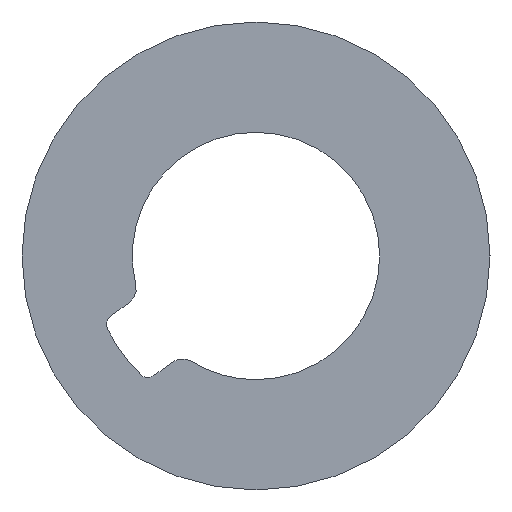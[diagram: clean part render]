
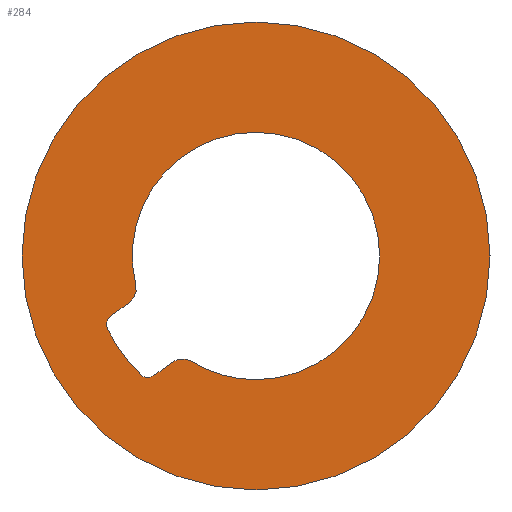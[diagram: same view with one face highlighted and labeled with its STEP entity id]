
A CAD part, left-side view. The second image highlights one B-rep face of the part: STEP entity #284.
In plain terms, the highlighted planar face has unit normal (-1, 0, 0).
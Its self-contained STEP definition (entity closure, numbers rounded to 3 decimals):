
#22 = AXIS2_PLACEMENT_3D ( 'NONE', #395, #394, #393 ) ;
#27 = AXIS2_PLACEMENT_3D ( 'NONE', #420, #419, #418 ) ;
#34 = AXIS2_PLACEMENT_3D ( 'NONE', #454, #453, #452 ) ;
#36 = AXIS2_PLACEMENT_3D ( 'NONE', #468, #467, #466 ) ;
#38 = AXIS2_PLACEMENT_3D ( 'NONE', #479, #478, #477 ) ;
#40 = AXIS2_PLACEMENT_3D ( 'NONE', #493, #492, #491 ) ;
#42 = AXIS2_PLACEMENT_3D ( 'NONE', #522, #521, #520 ) ;
#43 = AXIS2_PLACEMENT_3D ( 'NONE', #354, #525, #524 ) ;
#44 = AXIS2_PLACEMENT_3D ( 'NONE', #366, #362, #358 ) ;
#45 = AXIS2_PLACEMENT_3D ( 'NONE', #388, #384, #379 ) ;
#47 = AXIS2_PLACEMENT_3D ( 'NONE', #421, #417, #414 ) ;
#48 = AXIS2_PLACEMENT_3D ( 'NONE', #432, #429, #425 ) ;
#49 = EDGE_CURVE ( 'NONE', #469, #516, #230, .T. ) ;
#50 = EDGE_CURVE ( 'NONE', #476, #451, #228, .T. ) ;
#53 = EDGE_CURVE ( 'NONE', #519, #440, #222, .T. ) ;
#54 = EDGE_CURVE ( 'NONE', #440, #513, #223, .T. ) ;
#55 = EDGE_CURVE ( 'NONE', #513, #476, #218, .T. ) ;
#56 = EDGE_CURVE ( 'NONE', #451, #462, #216, .T. ) ;
#57 = EDGE_CURVE ( 'NONE', #462, #465, #214, .T. ) ;
#66 = EDGE_CURVE ( 'NONE', #436, #444, #196, .T. ) ;
#70 = EDGE_CURVE ( 'NONE', #490, #494, #188, .T. ) ;
#73 = EDGE_CURVE ( 'NONE', #516, #490, #182, .T. ) ;
#77 = EDGE_CURVE ( 'NONE', #494, #519, #174, .T. ) ;
#86 = EDGE_CURVE ( 'NONE', #444, #436, #156, .T. ) ;
#87 = EDGE_CURVE ( 'NONE', #465, #469, #157, .T. ) ;
#93 = ORIENTED_EDGE ( 'NONE', *, *, #87, .T. ) ;
#94 = ORIENTED_EDGE ( 'NONE', *, *, #66, .F. ) ;
#95 = ORIENTED_EDGE ( 'NONE', *, *, #86, .F. ) ;
#96 = ORIENTED_EDGE ( 'NONE', *, *, #49, .T. ) ;
#97 = ORIENTED_EDGE ( 'NONE', *, *, #70, .T. ) ;
#98 = ORIENTED_EDGE ( 'NONE', *, *, #73, .T. ) ;
#104 = ORIENTED_EDGE ( 'NONE', *, *, #54, .T. ) ;
#105 = ORIENTED_EDGE ( 'NONE', *, *, #53, .T. ) ;
#106 = ORIENTED_EDGE ( 'NONE', *, *, #77, .T. ) ;
#107 = ORIENTED_EDGE ( 'NONE', *, *, #56, .T. ) ;
#108 = ORIENTED_EDGE ( 'NONE', *, *, #50, .T. ) ;
#109 = ORIENTED_EDGE ( 'NONE', *, *, #55, .T. ) ;
#110 = ORIENTED_EDGE ( 'NONE', *, *, #57, .T. ) ;
#146 = FACE_BOUND ( 'NONE', #235, .T. ) ;
#147 = FACE_OUTER_BOUND ( 'NONE', #236, .T. ) ;
#155 = VECTOR ( 'NONE', #415, 1000. ) ;
#156 = CIRCLE ( 'NONE', #27, 7. ) ;
#157 = LINE ( 'NONE', #416, #155 ) ;
#174 = CIRCLE ( 'NONE', #34, 3.7 ) ;
#182 = CIRCLE ( 'NONE', #36, 3.7 ) ;
#188 = CIRCLE ( 'NONE', #38, 3.7 ) ;
#196 = CIRCLE ( 'NONE', #40, 7. ) ;
#214 = CIRCLE ( 'NONE', #42, 0.3 ) ;
#216 = CIRCLE ( 'NONE', #43, 4.95 ) ;
#218 = CIRCLE ( 'NONE', #44, 0.3 ) ;
#219 = VECTOR ( 'NONE', #370, 1000. ) ;
#222 = CIRCLE ( 'NONE', #45, 0.5 ) ;
#223 = LINE ( 'NONE', #374, #219 ) ;
#228 = CIRCLE ( 'NONE', #47, 0.3 ) ;
#230 = CIRCLE ( 'NONE', #48, 0.5 ) ;
#235 = EDGE_LOOP ( 'NONE', ( #93, #96, #98, #97, #106, #105, #104, #109, #108, #107, #110 ) ) ;
#236 = EDGE_LOOP ( 'NONE', ( #95, #94 ) ) ;
#284 = ADVANCED_FACE ( 'NONE', ( #147, #146 ), #396, .F. ) ;
#318 = CARTESIAN_POINT ( 'NONE',  ( -464.5, 1.939, -3.151 ) ) ;
#319 = CARTESIAN_POINT ( 'NONE',  ( -464.5, 3.596, -0.87 ) ) ;
#320 = CARTESIAN_POINT ( 'NONE',  ( -464.5, 3.059, -3.582 ) ) ;
#326 = CARTESIAN_POINT ( 'NONE',  ( -464.5, 0., -3.7 ) ) ;
#327 = CARTESIAN_POINT ( 'NONE',  ( -464.5, 0., 3.7 ) ) ;
#331 = CARTESIAN_POINT ( 'NONE',  ( -464.5, 3.236, -3.64 ) ) ;
#333 = CARTESIAN_POINT ( 'NONE',  ( -464.5, 3.788, -1.393 ) ) ;
#334 = CARTESIAN_POINT ( 'NONE',  ( -464.5, 4.352, -1.803 ) ) ;
#335 = CARTESIAN_POINT ( 'NONE',  ( -464.5, 4.445, -2.177 ) ) ;
#338 = CARTESIAN_POINT ( 'NONE',  ( -464.5, 3.444, -3.555 ) ) ;
#340 = CARTESIAN_POINT ( 'NONE',  ( -464.5, 0., 7. ) ) ;
#341 = CARTESIAN_POINT ( 'NONE',  ( -464.5, 2.495, -3.172 ) ) ;
#342 = CARTESIAN_POINT ( 'NONE',  ( -464.5, 0., -7. ) ) ;
#354 = CARTESIAN_POINT ( 'NONE',  ( -464.5, 0., 0. ) ) ;
#358 = DIRECTION ( 'NONE',  ( 0., 0., 1. ) ) ;
#362 = DIRECTION ( 'NONE',  ( 1., 0., 0. ) ) ;
#366 = CARTESIAN_POINT ( 'NONE',  ( -464.5, 3.236, -3.34 ) ) ;
#370 = DIRECTION ( 'NONE',  ( 0., 0.809, -0.588 ) ) ;
#374 = CARTESIAN_POINT ( 'NONE',  ( -464.5, 3.059, -3.582 ) ) ;
#379 = DIRECTION ( 'NONE',  ( 0., 0., -1. ) ) ;
#384 = DIRECTION ( 'NONE',  ( -1., 0., 0. ) ) ;
#388 = CARTESIAN_POINT ( 'NONE',  ( -464.5, 2.201, -3.577 ) ) ;
#393 = DIRECTION ( 'NONE',  ( 0., 0., -1. ) ) ;
#394 = DIRECTION ( 'NONE',  ( 1., 0., 0. ) ) ;
#395 = CARTESIAN_POINT ( 'NONE',  ( -464.5, 0., 0. ) ) ;
#396 = PLANE ( 'NONE',  #22 ) ;
#414 = DIRECTION ( 'NONE',  ( 0., 0., 1. ) ) ;
#415 = DIRECTION ( 'NONE',  ( 0., -0.809, 0.588 ) ) ;
#416 = CARTESIAN_POINT ( 'NONE',  ( -464.5, 3.788, -1.393 ) ) ;
#417 = DIRECTION ( 'NONE',  ( 1., 0., 0. ) ) ;
#418 = DIRECTION ( 'NONE',  ( 0., 0., -1. ) ) ;
#419 = DIRECTION ( 'NONE',  ( 1., 0., 0. ) ) ;
#420 = CARTESIAN_POINT ( 'NONE',  ( -464.5, 0., 0. ) ) ;
#421 = CARTESIAN_POINT ( 'NONE',  ( -464.5, 3.236, -3.34 ) ) ;
#425 = DIRECTION ( 'NONE',  ( 0., 0., 1. ) ) ;
#429 = DIRECTION ( 'NONE',  ( -1., 0., 0. ) ) ;
#432 = CARTESIAN_POINT ( 'NONE',  ( -464.5, 4.082, -0.988 ) ) ;
#436 = VERTEX_POINT ( 'NONE', #342 ) ;
#440 = VERTEX_POINT ( 'NONE', #341 ) ;
#444 = VERTEX_POINT ( 'NONE', #340 ) ;
#451 = VERTEX_POINT ( 'NONE', #338 ) ;
#452 = DIRECTION ( 'NONE',  ( 0., 0., -1. ) ) ;
#453 = DIRECTION ( 'NONE',  ( 1., 0., 0. ) ) ;
#454 = CARTESIAN_POINT ( 'NONE',  ( -464.5, 0., 0. ) ) ;
#462 = VERTEX_POINT ( 'NONE', #335 ) ;
#465 = VERTEX_POINT ( 'NONE', #334 ) ;
#466 = DIRECTION ( 'NONE',  ( 0., 0., -1. ) ) ;
#467 = DIRECTION ( 'NONE',  ( 1., 0., 0. ) ) ;
#468 = CARTESIAN_POINT ( 'NONE',  ( -464.5, 0., 0. ) ) ;
#469 = VERTEX_POINT ( 'NONE', #333 ) ;
#476 = VERTEX_POINT ( 'NONE', #331 ) ;
#477 = DIRECTION ( 'NONE',  ( 0., 0., -1. ) ) ;
#478 = DIRECTION ( 'NONE',  ( 1., 0., 0. ) ) ;
#479 = CARTESIAN_POINT ( 'NONE',  ( -464.5, 0., 0. ) ) ;
#490 = VERTEX_POINT ( 'NONE', #327 ) ;
#491 = DIRECTION ( 'NONE',  ( 0., 0., -1. ) ) ;
#492 = DIRECTION ( 'NONE',  ( 1., 0., 0. ) ) ;
#493 = CARTESIAN_POINT ( 'NONE',  ( -464.5, 0., 0. ) ) ;
#494 = VERTEX_POINT ( 'NONE', #326 ) ;
#513 = VERTEX_POINT ( 'NONE', #320 ) ;
#516 = VERTEX_POINT ( 'NONE', #319 ) ;
#519 = VERTEX_POINT ( 'NONE', #318 ) ;
#520 = DIRECTION ( 'NONE',  ( 0., 0., -1. ) ) ;
#521 = DIRECTION ( 'NONE',  ( 1., 0., 0. ) ) ;
#522 = CARTESIAN_POINT ( 'NONE',  ( -464.5, 4.176, -2.045 ) ) ;
#524 = DIRECTION ( 'NONE',  ( 0., 0., 1. ) ) ;
#525 = DIRECTION ( 'NONE',  ( 1., 0., 0. ) ) ;
